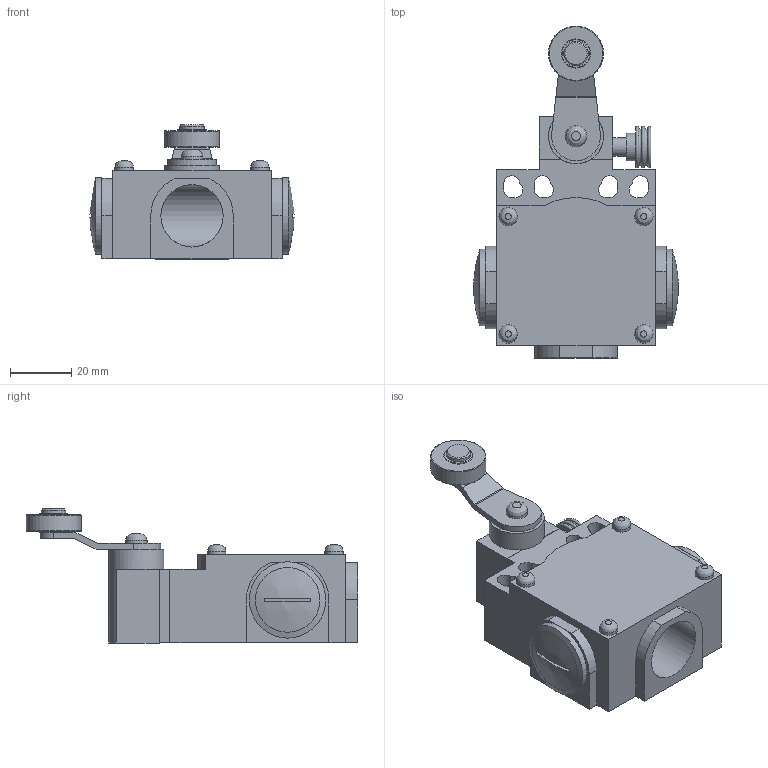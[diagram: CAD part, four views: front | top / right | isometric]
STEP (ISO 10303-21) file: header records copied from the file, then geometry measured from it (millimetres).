
FILE_DESCRIPTION((''),'2;1');
FILE_NAME('D:\Documenti_D\Corrispondenza\Comepi\Catalogo da fare\Modelli Nov 2011\DM e CM\STEP\DM1-R41.iam.step','2011-11-17T12:01:24',(''),(''),'Autodesk Inventor 2010','Autodesk Inventor 2010','');
FILE_SCHEMA(('AUTOMOTIVE_DESIGN { 1 0 10303 214 1 1 1 1 }'));
Length unit declared in the file: millimetre
Products named in the file (7): DM1-R41; DM1; tappo; R41; Rr; T41_2
Assembly tree (7 placements, depth 3):
  DM1-R41
    DM1
      DM1
      tappo  x2
    R41
      Rr
      T41_2
Bounding box: 66.83 x 108.57 x 43.85 mm (x, y, z)
Volume: 82774.1 mm3; surface area: 27191 mm2
Topology: 5 solids, 5 shells, 142 faces, 334 edges, 217 vertices
Faces by surface type: plane 78, cylinder 42, torus 9, cone 6, bspline 5, sphere 2
Full cylindrical faces by diameter (mm): 6 x7, 7 x1, 8 x1, 9 x1, 18 x2, 20.4 x2, 25 x2
Entity records: 4209 total; most frequent: CARTESIAN_POINT 924, DIRECTION 670, ORIENTED_EDGE 556, EDGE_CURVE 278, AXIS2_PLACEMENT_3D 252, VERTEX_POINT 201, EDGE_LOOP 193, VECTOR 166
